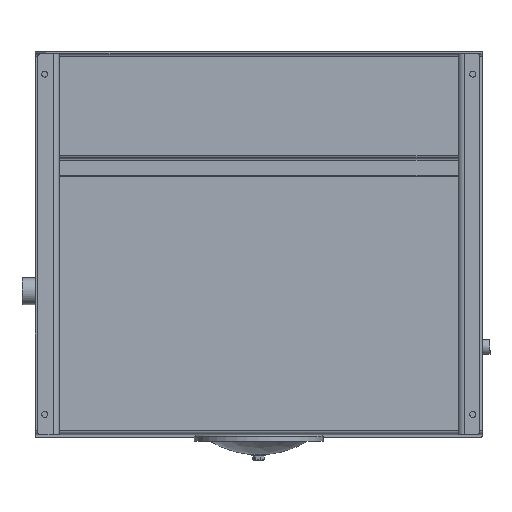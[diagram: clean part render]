
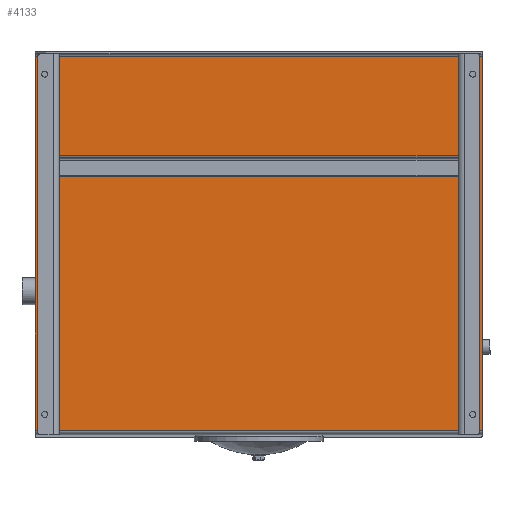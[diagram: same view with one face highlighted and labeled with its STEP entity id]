
A CAD part, front view. The second image highlights one B-rep face of the part: STEP entity #4133.
In plain terms, the highlighted planar face has unit normal (0, -1, 0).
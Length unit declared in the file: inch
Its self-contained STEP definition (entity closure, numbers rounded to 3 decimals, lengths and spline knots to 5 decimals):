
#169 = CARTESIAN_POINT ( 'NONE',  ( -27.61712, -10.54397, 21.3073 ) ) ;
#577 = DIRECTION ( 'NONE',  ( 1., 0., 0. ) ) ;
#1922 = DIRECTION ( 'NONE',  ( 0., 0., -1. ) ) ;
#1964 = DIRECTION ( 'NONE',  ( 0., -1., 0. ) ) ;
#2041 = PLANE ( 'NONE',  #15177 ) ;
#2061 = CARTESIAN_POINT ( 'NONE',  ( -27.61712, -10.54397, -14.2634 ) ) ;
#2130 = EDGE_LOOP ( 'NONE', ( #14726, #19134, #8092, #16314 ) ) ;
#2571 = EDGE_CURVE ( 'NONE', #10641, #20765, #9755, .T. ) ;
#4133 = ADVANCED_FACE ( 'NONE', ( #9406 ), #2041, .T. ) ;
#4429 = VECTOR ( 'NONE', #577, 39.37008 ) ;
#4987 = LINE ( 'NONE', #169, #4429 ) ;
#5071 = EDGE_CURVE ( 'NONE', #21208, #20765, #8884, .T. ) ;
#5663 = CARTESIAN_POINT ( 'NONE',  ( 14.38288, -10.54397, -13.8341 ) ) ;
#5808 = EDGE_CURVE ( 'NONE', #8588, #10641, #4987, .T. ) ;
#5995 = CARTESIAN_POINT ( 'NONE',  ( -27.61712, -10.54397, 21.3073 ) ) ;
#8092 = ORIENTED_EDGE ( 'NONE', *, *, #2571, .F. ) ;
#8588 = VERTEX_POINT ( 'NONE', #5995 ) ;
#8884 = LINE ( 'NONE', #13479, #21297 ) ;
#9168 = CARTESIAN_POINT ( 'NONE',  ( -27.61712, -10.54397, -13.8341 ) ) ;
#9406 = FACE_OUTER_BOUND ( 'NONE', #2130, .T. ) ;
#9439 = EDGE_CURVE ( 'NONE', #21208, #8588, #20241, .T. ) ;
#9755 = LINE ( 'NONE', #21644, #17657 ) ;
#10641 = VERTEX_POINT ( 'NONE', #14365 ) ;
#12997 = DIRECTION ( 'NONE',  ( 1., 0., 0. ) ) ;
#13479 = CARTESIAN_POINT ( 'NONE',  ( -27.61712, -10.54397, -13.8341 ) ) ;
#13572 = CARTESIAN_POINT ( 'NONE',  ( -27.61712, -10.54397, 21.7366 ) ) ;
#14365 = CARTESIAN_POINT ( 'NONE',  ( 14.38288, -10.54397, 21.3073 ) ) ;
#14726 = ORIENTED_EDGE ( 'NONE', *, *, #9439, .F. ) ;
#15177 = AXIS2_PLACEMENT_3D ( 'NONE', #2061, #1964, #1922 ) ;
#16314 = ORIENTED_EDGE ( 'NONE', *, *, #5808, .F. ) ;
#17657 = VECTOR ( 'NONE', #21471, 39.37008 ) ;
#19134 = ORIENTED_EDGE ( 'NONE', *, *, #5071, .T. ) ;
#19712 = VECTOR ( 'NONE', #20253, 39.37008 ) ;
#20241 = LINE ( 'NONE', #13572, #19712 ) ;
#20253 = DIRECTION ( 'NONE',  ( 0., 0., 1. ) ) ;
#20765 = VERTEX_POINT ( 'NONE', #5663 ) ;
#21208 = VERTEX_POINT ( 'NONE', #9168 ) ;
#21297 = VECTOR ( 'NONE', #12997, 39.37008 ) ;
#21471 = DIRECTION ( 'NONE',  ( 0., 0., -1. ) ) ;
#21644 = CARTESIAN_POINT ( 'NONE',  ( 14.38288, -10.54397, 21.7366 ) ) ;
